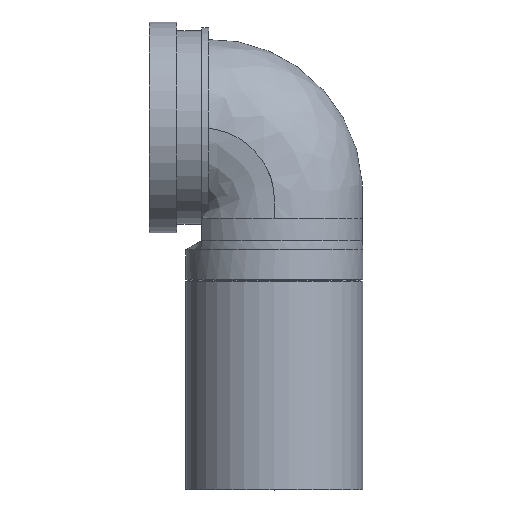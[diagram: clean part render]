
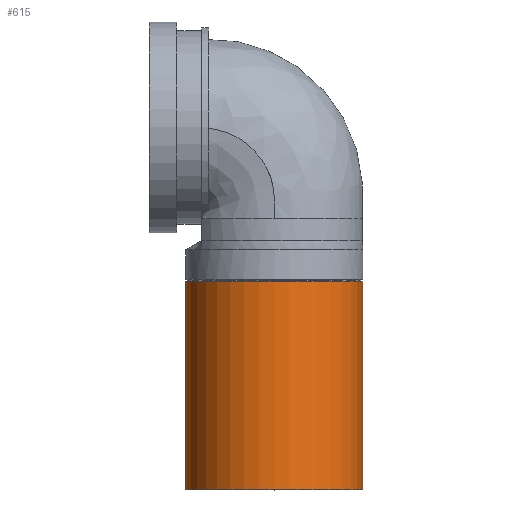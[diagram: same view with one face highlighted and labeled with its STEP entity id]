
A CAD part, top view. The second image highlights one B-rep face of the part: STEP entity #615.
In plain terms, the highlighted cylindrical face has radius 55 mm (diameter 110 mm), a full revolution.
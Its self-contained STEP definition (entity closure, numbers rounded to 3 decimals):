
#98=CYLINDRICAL_SURFACE($,#674,55.);
#112=FACE_BOUND($,#183,.T.);
#139=FACE_OUTER_BOUND($,#182,.T.);
#182=EDGE_LOOP($,(#431));
#183=EDGE_LOOP($,(#432));
#233=CIRCLE($,#656,55.);
#248=CIRCLE($,#675,55.);
#264=VERTEX_POINT($,#841);
#281=VERTEX_POINT($,#1079);
#319=EDGE_CURVE($,#264,#264,#233,.T.);
#340=EDGE_CURVE($,#281,#281,#248,.T.);
#431=ORIENTED_EDGE($,*,*,#319,.T.);
#432=ORIENTED_EDGE($,*,*,#340,.F.);
#615=ADVANCED_FACE($,(#139,#112),#98,.T.);
#656=AXIS2_PLACEMENT_3D($,#842,#717,#718);
#674=AXIS2_PLACEMENT_3D($,#1078,#759,#760);
#675=AXIS2_PLACEMENT_3D($,#1080,#761,#762);
#717=DIRECTION('center_axis',(0.,-1.,0.));
#718=DIRECTION('ref_axis',(1.,0.,0.));
#759=DIRECTION('center_axis',(0.,1.,0.));
#760=DIRECTION('ref_axis',(1.,0.,0.));
#761=DIRECTION('center_axis',(0.,-1.,0.));
#762=DIRECTION('ref_axis',(1.,0.,0.));
#841=CARTESIAN_POINT('',(55.,129.365,0.));
#842=CARTESIAN_POINT('Origin',(0.,129.365,0.));
#1078=CARTESIAN_POINT('Origin',(0.,0.,0.));
#1079=CARTESIAN_POINT('',(-55.,0.,0.));
#1080=CARTESIAN_POINT('Origin',(0.,0.,0.));
